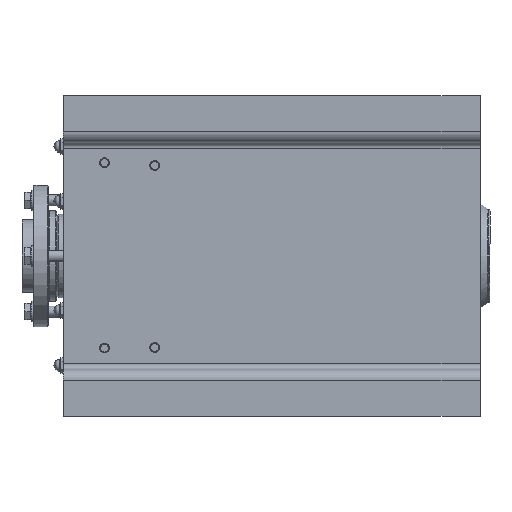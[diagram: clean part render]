
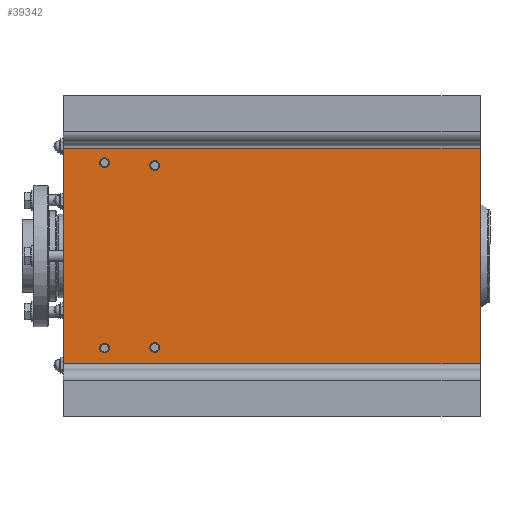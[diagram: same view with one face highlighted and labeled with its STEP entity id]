
A CAD part, front view. The second image highlights one B-rep face of the part: STEP entity #39342.
In plain terms, the highlighted planar face has unit normal (0, -1, 0).
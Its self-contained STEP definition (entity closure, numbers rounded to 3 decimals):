
#3161=LINE('',#66634,#6045);
#3162=LINE('',#66636,#6046);
#3163=LINE('',#66638,#6047);
#3164=LINE('',#66639,#6048);
#6045=VECTOR('',#50711,10.);
#6046=VECTOR('',#50712,10.);
#6047=VECTOR('',#50713,10.);
#6048=VECTOR('',#50714,10.);
#9158=FACE_OUTER_BOUND('',#11585,.T.);
#11585=EDGE_LOOP('',(#29982,#29983,#29984,#29985));
#16628=VERTEX_POINT('',#66632);
#16629=VERTEX_POINT('',#66633);
#16630=VERTEX_POINT('',#66635);
#16631=VERTEX_POINT('',#66637);
#21263=EDGE_CURVE('',#16628,#16629,#3161,.T.);
#21264=EDGE_CURVE('',#16629,#16630,#3162,.T.);
#21265=EDGE_CURVE('',#16630,#16631,#3163,.T.);
#21266=EDGE_CURVE('',#16631,#16628,#3164,.T.);
#29982=ORIENTED_EDGE('',*,*,#21263,.T.);
#29983=ORIENTED_EDGE('',*,*,#21264,.T.);
#29984=ORIENTED_EDGE('',*,*,#21265,.T.);
#29985=ORIENTED_EDGE('',*,*,#21266,.T.);
#35261=PLANE('',#42659);
#39342=ADVANCED_FACE('',(#9158),#35261,.F.);
#42659=AXIS2_PLACEMENT_3D('',#66631,#50709,#50710);
#50709=DIRECTION('center_axis',(0.,1.,0.));
#50710=DIRECTION('ref_axis',(1.,0.,0.));
#50711=DIRECTION('',(-1.,0.,0.));
#50712=DIRECTION('',(0.,0.,-1.));
#50713=DIRECTION('',(1.,0.,0.));
#50714=DIRECTION('',(0.,0.,1.));
#66631=CARTESIAN_POINT('Origin',(-127.193,-202.848,0.));
#66632=CARTESIAN_POINT('',(172.807,-202.848,155.));
#66633=CARTESIAN_POINT('',(-427.193,-202.848,155.));
#66634=CARTESIAN_POINT('',(22.807,-202.848,155.));
#66635=CARTESIAN_POINT('',(-427.193,-202.848,-155.));
#66636=CARTESIAN_POINT('',(-427.193,-202.848,171.));
#66637=CARTESIAN_POINT('',(172.807,-202.848,-155.));
#66638=CARTESIAN_POINT('',(-277.193,-202.848,-155.));
#66639=CARTESIAN_POINT('',(172.807,-202.848,-171.));
